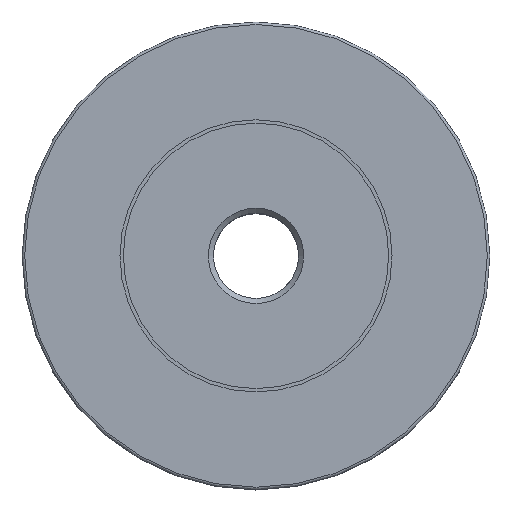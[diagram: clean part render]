
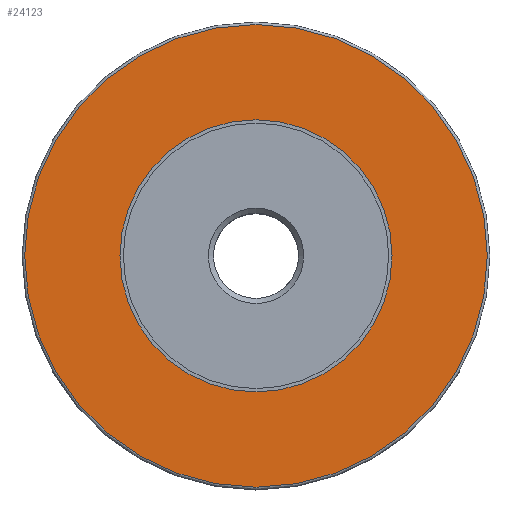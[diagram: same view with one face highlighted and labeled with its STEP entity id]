
A CAD part, top view. The second image highlights one B-rep face of the part: STEP entity #24123.
In plain terms, the highlighted planar face has unit normal (0, 0, 1).
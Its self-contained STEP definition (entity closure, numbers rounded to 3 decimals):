
#2021 = CYLINDRICAL_SURFACE('',#2022,8.);
#2022 = AXIS2_PLACEMENT_3D('',#2023,#2024,#2025);
#2023 = CARTESIAN_POINT('',(0.,0.,14.9));
#2024 = DIRECTION('',(0.,0.,1.));
#2025 = DIRECTION('',(1.,0.,-0.));
#2041 = VERTEX_POINT('',#2042);
#2042 = CARTESIAN_POINT('',(8.,0.,15.));
#2062 = EDGE_CURVE('',#2041,#2041,#2063,.T.);
#2063 = SURFACE_CURVE('',#2064,(#2069,#2076),.PCURVE_S1.);
#2064 = CIRCLE('',#2065,8.);
#2065 = AXIS2_PLACEMENT_3D('',#2066,#2067,#2068);
#2066 = CARTESIAN_POINT('',(0.,0.,15.));
#2067 = DIRECTION('',(0.,0.,1.));
#2068 = DIRECTION('',(1.,0.,-0.));
#2069 = PCURVE('',#2021,#2070);
#2070 = DEFINITIONAL_REPRESENTATION('',(#2071),#2075);
#2071 = LINE('',#2072,#2073);
#2072 = CARTESIAN_POINT('',(0.,0.1));
#2073 = VECTOR('',#2074,1.);
#2074 = DIRECTION('',(1.,0.));
#2075 = ( GEOMETRIC_REPRESENTATION_CONTEXT(2) 
PARAMETRIC_REPRESENTATION_CONTEXT() REPRESENTATION_CONTEXT('2D SPACE',''
  ) );
#2076 = PCURVE('',#2077,#2082);
#2077 = PLANE('',#2078);
#2078 = AXIS2_PLACEMENT_3D('',#2079,#2080,#2081);
#2079 = CARTESIAN_POINT('',(0.,0.,15.));
#2080 = DIRECTION('',(0.,0.,1.));
#2081 = DIRECTION('',(1.,0.,-0.));
#2082 = DEFINITIONAL_REPRESENTATION('',(#2083),#2087);
#2083 = CIRCLE('',#2084,8.);
#2084 = AXIS2_PLACEMENT_2D('',#2085,#2086);
#2085 = CARTESIAN_POINT('',(0.,0.));
#2086 = DIRECTION('',(1.,0.));
#2087 = ( GEOMETRIC_REPRESENTATION_CONTEXT(2) 
PARAMETRIC_REPRESENTATION_CONTEXT() REPRESENTATION_CONTEXT('2D SPACE',''
  ) );
#2310 = TOROIDAL_SURFACE('',#2311,13.6,0.15);
#2311 = AXIS2_PLACEMENT_3D('',#2312,#2313,#2314);
#2312 = CARTESIAN_POINT('',(0.,0.,14.85));
#2313 = DIRECTION('',(0.,0.,1.));
#2314 = DIRECTION('',(1.,0.,-0.));
#2335 = VERTEX_POINT('',#2336);
#2336 = CARTESIAN_POINT('',(13.6,0.,15.));
#2361 = EDGE_CURVE('',#2335,#2335,#2362,.T.);
#2362 = SURFACE_CURVE('',#2363,(#2368,#2375),.PCURVE_S1.);
#2363 = CIRCLE('',#2364,13.6);
#2364 = AXIS2_PLACEMENT_3D('',#2365,#2366,#2367);
#2365 = CARTESIAN_POINT('',(0.,0.,15.));
#2366 = DIRECTION('',(0.,0.,1.));
#2367 = DIRECTION('',(1.,0.,-0.));
#2368 = PCURVE('',#2310,#2369);
#2369 = DEFINITIONAL_REPRESENTATION('',(#2370),#2374);
#2370 = LINE('',#2371,#2372);
#2371 = CARTESIAN_POINT('',(0.,7.854));
#2372 = VECTOR('',#2373,1.);
#2373 = DIRECTION('',(1.,0.));
#2374 = ( GEOMETRIC_REPRESENTATION_CONTEXT(2) 
PARAMETRIC_REPRESENTATION_CONTEXT() REPRESENTATION_CONTEXT('2D SPACE',''
  ) );
#2375 = PCURVE('',#2077,#2376);
#2376 = DEFINITIONAL_REPRESENTATION('',(#2377),#2381);
#2377 = CIRCLE('',#2378,13.6);
#2378 = AXIS2_PLACEMENT_2D('',#2379,#2380);
#2379 = CARTESIAN_POINT('',(0.,0.));
#2380 = DIRECTION('',(1.,0.));
#2381 = ( GEOMETRIC_REPRESENTATION_CONTEXT(2) 
PARAMETRIC_REPRESENTATION_CONTEXT() REPRESENTATION_CONTEXT('2D SPACE',''
  ) );
#24123 = ADVANCED_FACE('',(#24124,#24127),#2077,.T.);
#24124 = FACE_BOUND('',#24125,.T.);
#24125 = EDGE_LOOP('',(#24126));
#24126 = ORIENTED_EDGE('',*,*,#2062,.F.);
#24127 = FACE_BOUND('',#24128,.T.);
#24128 = EDGE_LOOP('',(#24129));
#24129 = ORIENTED_EDGE('',*,*,#2361,.T.);
